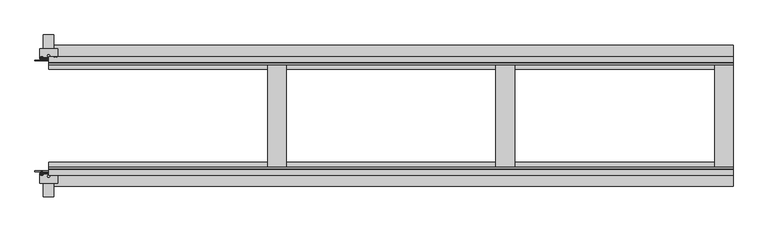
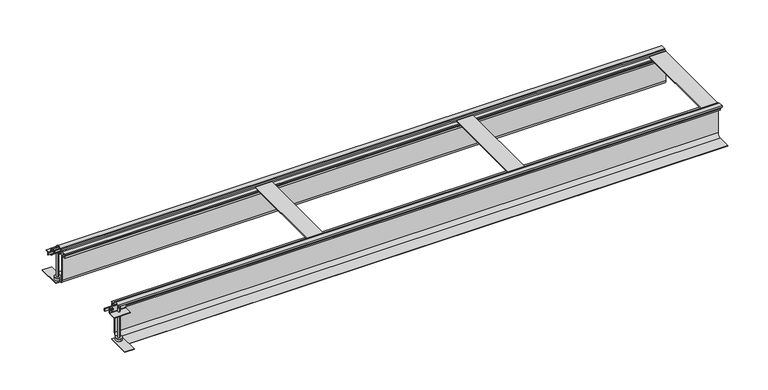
"""IFC4 building model written with IfcOpenShell, lengths in millimetres: proxy geometry, Electrical_Installation_Hager_BKF-Trunking-System-With-Flexible-Screed-Casing-For-Dry-Cleaned-Floors : Nominal Size 400  Length 2.4 m."""

from ifc_helpers import new_model, si_unit, point, frame, frame_2d, origin, place, context, project, spatial, polyline, circle_curve, ellipse_curve, trimmed, segment, composite_curve, outline, extrude, source, transform, mapped, element, save
from ifc_brep_helpers import plane_surface, cylinder_surface, revolved_surface, advanced_brep


def electrical_fixtures_b430188c(model_context):
    return source(origin(), model_context, "Body", "SolidModel", [
        advanced_brep(
        [(-19.209696, -206.6418922, 3.3), (-28.790304, -206.6418922, 3.3), (-28.790304, -204.7, 3.3), (-19.209696, -204.7, 3.3), (-26.562969, -204.7, 3.3), (-21.437031, -204.7, 3.3), (-26.562969, -192.7, 3.3), (-21.437031, -192.7, 3.3), (-24.0, -192.7, 3.3), (-24.0, -208.3479209, 3.3)],
        [
            (0, 1, circle_curve(frame((-24.0, -206.6418922, 3.3), z_axis=(0.0, 1.0, 0.0), x_axis=(-1.0, 0.0, 0.0)), 4.790304)),
            (1, 2),
            (2, 3, circle_curve(frame((-24.0, -204.7, 3.3), z_axis=(0.0, -1.0, 0.0), x_axis=(-1.0, 0.0, 0.0)), 4.790304)),
            (3, 0),
            (1, 0, circle_curve(frame((-24.0, -206.6418922, 3.3), z_axis=(0.0, 1.0, 0.0), x_axis=(-1.0, 0.0, 0.0)), 4.790304)),
            (3, 2, circle_curve(frame((-24.0, -204.7, 3.3), z_axis=(0.0, -1.0, 0.0), x_axis=(-1.0, 0.0, 0.0)), 4.790304)),
            (2, 4),
            (4, 5, circle_curve(frame((-24.0, -204.7, 3.3), z_axis=(0.0, -1.0, 0.0), x_axis=(-1.0, 0.0, 0.0)), 2.562969)),
            (5, 3),
            (5, 4, circle_curve(frame((-24.0, -204.7, 3.3), z_axis=(0.0, -1.0, 0.0), x_axis=(-1.0, 0.0, 0.0)), 2.562969)),
            (4, 6),
            (6, 7, circle_curve(frame((-24.0, -192.7, 3.3), z_axis=(0.0, -1.0, 0.0), x_axis=(-1.0, 0.0, 0.0)), 2.562969)),
            (7, 5),
            (7, 6, circle_curve(frame((-24.0, -192.7, 3.3), z_axis=(0.0, -1.0, 0.0), x_axis=(-1.0, 0.0, 0.0)), 2.562969)),
            (6, 8),
            (8, 7),
            (9, 1, circle_curve(frame((-24.0319066, -200.8592246, 3.3), z_axis=(0.0, 0.0, -1.0), x_axis=(-1.0, 0.0, 0.0)), 7.4887643)),
            (0, 9, circle_curve(frame((-23.9680934, -200.8592246, 3.3), z_axis=(0.0, 0.0, -1.0), x_axis=(1.0, 0.0, 0.0)), 7.4887643)),
        ],
        [
            cylinder_surface(frame((-24.0, -204.2950786, 3.3), z_axis=(0.0, -1.0, 0.0), x_axis=(-1.0, 0.0, 0.0)), 4.790304),
            plane_surface(frame((-24.0, -204.7, 3.3), z_axis=(0.0, 1.0, 0.0), x_axis=(-1.0, 0.0, 0.0))),
            cylinder_surface(frame((-24.0, -204.2950786, 3.3), z_axis=(0.0, -1.0, 0.0), x_axis=(-1.0, 0.0, 0.0)), 2.562969),
            plane_surface(frame((-24.0, -192.7, 3.3), z_axis=(0.0, 1.0, 0.0), x_axis=(-1.0, 0.0, 0.0))),
            revolved_surface(trimmed(ellipse_curve(frame((-24.0319066, -200.8592246, 3.3), z_axis=(0.0, 0.0, 1.0), x_axis=(-1.0, 0.0, 0.0)), 7.4887643, 7.4887643), [point((-28.790304, -206.6418922, 3.3))], [point((-24.0, -208.3479209, 3.3))], True, "CARTESIAN"), (-24.0, -204.2950786, 3.3), (0.0, -1.0, 0.0)),
        ],
        [
            (0, [[1, 2, 3, 4]]),
            (0, [[5, -4, 6, -2]]),
            (1, [[-3, 7, 8, 9]]),
            (1, [[-6, -9, 10, -7]]),
            (2, [[-8, 11, 12, 13]]),
            (2, [[-10, -13, 14, -11]]),
            (3, [[-12, 15, 16]]),
            (3, [[-14, -16, -15]]),
            (4, [[17, -1, 18]]),
            (4, [[-18, -5, -17]]),
        ],
    ),
        advanced_brep(
        [(29.0575247, 204.7, 3.3), (19.4769168, 204.7, 3.3), (19.4769168, 206.6418922, 3.3), (29.0575247, 206.6418922, 3.3), (26.8301898, 204.7, 3.3), (21.7042517, 204.7, 3.3), (26.8301898, 192.7, 3.3), (21.7042517, 192.7, 3.3), (24.2672208, 192.7, 3.3), (24.2672208, 208.3479209, 3.3)],
        [
            (0, 1, circle_curve(frame((24.2672208, 204.7, 3.3), z_axis=(0.0, 1.0, 0.0), x_axis=(-1.0, 0.0, 0.0)), 4.790304)),
            (1, 2),
            (2, 3, circle_curve(frame((24.2672208, 206.6418922, 3.3), z_axis=(0.0, -1.0, 0.0), x_axis=(-1.0, 0.0, 0.0)), 4.790304)),
            (3, 0),
            (1, 0, circle_curve(frame((24.2672208, 204.7, 3.3), z_axis=(0.0, 1.0, 0.0), x_axis=(-1.0, 0.0, 0.0)), 4.790304)),
            (3, 2, circle_curve(frame((24.2672208, 206.6418922, 3.3), z_axis=(0.0, -1.0, 0.0), x_axis=(-1.0, 0.0, 0.0)), 4.790304)),
            (4, 5, circle_curve(frame((24.2672208, 204.7, 3.3), z_axis=(0.0, 1.0, 0.0), x_axis=(-1.0, 0.0, 0.0)), 2.562969)),
            (5, 1),
            (0, 4),
            (5, 4, circle_curve(frame((24.2672208, 204.7, 3.3), z_axis=(0.0, 1.0, 0.0), x_axis=(-1.0, 0.0, 0.0)), 2.562969)),
            (6, 7, circle_curve(frame((24.2672208, 192.7, 3.3), z_axis=(0.0, 1.0, 0.0), x_axis=(-1.0, 0.0, 0.0)), 2.562969)),
            (7, 5),
            (4, 6),
            (7, 6, circle_curve(frame((24.2672208, 192.7, 3.3), z_axis=(0.0, 1.0, 0.0), x_axis=(-1.0, 0.0, 0.0)), 2.562969)),
            (8, 7),
            (6, 8),
            (2, 9, circle_curve(frame((24.2353142, 200.8592246, 3.3), z_axis=(0.0, 0.0, -1.0), x_axis=(-1.0, 0.0, 0.0)), 7.4887643)),
            (9, 3, circle_curve(frame((24.2991274, 200.8592246, 3.3), z_axis=(0.0, 0.0, -1.0), x_axis=(1.0, 0.0, 0.0)), 7.4887643)),
        ],
        [
            cylinder_surface(frame((24.2672208, 204.2950786, 3.3), z_axis=(0.0, -1.0, 0.0), x_axis=(-1.0, 0.0, 0.0)), 4.790304),
            plane_surface(frame((24.2672208, 204.7, 3.3), z_axis=(0.0, -1.0, 0.0), x_axis=(-1.0, 0.0, 0.0))),
            cylinder_surface(frame((24.2672208, 204.2950786, 3.3), z_axis=(0.0, -1.0, 0.0), x_axis=(-1.0, 0.0, 0.0)), 2.562969),
            plane_surface(frame((24.2672208, 192.7, 3.3), z_axis=(0.0, -1.0, 0.0), x_axis=(-1.0, 0.0, 0.0))),
            revolved_surface(trimmed(ellipse_curve(frame((24.2353142, 200.8592246, 3.3), z_axis=(0.0, 0.0, 1.0), x_axis=(-1.0, 0.0, 0.0)), 7.4887643, 7.4887643), [point((24.2672208, 208.3479209, 3.3))], [point((19.4769168, 206.6418922, 3.3))], True, "CARTESIAN"), (24.2672208, 204.2950786, 3.3), (0.0, -1.0, 0.0)),
        ],
        [
            (0, [[1, 2, 3, 4]]),
            (0, [[5, -4, 6, -2]]),
            (1, [[7, 8, -1, 9]]),
            (1, [[10, -9, -5, -8]]),
            (2, [[11, 12, -7, 13]]),
            (2, [[14, -13, -10, -12]]),
            (3, [[15, -11, 16]]),
            (3, [[-16, -14, -15]]),
            (4, [[-3, 17, 18]]),
            (4, [[-6, -18, -17]]),
        ],
    ),
        advanced_brep(
        [(-19.209696, 204.7, 3.3), (-28.790304, 204.7, 3.3), (-28.790304, 206.6418922, 3.3), (-19.209696, 206.6418922, 3.3), (-21.437031, 204.7, 3.3), (-26.562969, 204.7, 3.3), (-21.437031, 192.7, 3.3), (-26.562969, 192.7, 3.3), (-24.0, 192.7, 3.3), (-24.0, 208.3479209, 3.3)],
        [
            (0, 1, circle_curve(frame((-24.0, 204.7, 3.3), z_axis=(0.0, 1.0, 0.0), x_axis=(-1.0, 0.0, 0.0)), 4.790304)),
            (1, 2),
            (2, 3, circle_curve(frame((-24.0, 206.6418922, 3.3), z_axis=(0.0, -1.0, 0.0), x_axis=(-1.0, 0.0, 0.0)), 4.790304)),
            (3, 0),
            (1, 0, circle_curve(frame((-24.0, 204.7, 3.3), z_axis=(0.0, 1.0, 0.0), x_axis=(-1.0, 0.0, 0.0)), 4.790304)),
            (3, 2, circle_curve(frame((-24.0, 206.6418922, 3.3), z_axis=(0.0, -1.0, 0.0), x_axis=(-1.0, 0.0, 0.0)), 4.790304)),
            (4, 5, circle_curve(frame((-24.0, 204.7, 3.3), z_axis=(0.0, 1.0, 0.0), x_axis=(-1.0, 0.0, 0.0)), 2.562969)),
            (5, 1),
            (0, 4),
            (5, 4, circle_curve(frame((-24.0, 204.7, 3.3), z_axis=(0.0, 1.0, 0.0), x_axis=(-1.0, 0.0, 0.0)), 2.562969)),
            (6, 7, circle_curve(frame((-24.0, 192.7, 3.3), z_axis=(0.0, 1.0, 0.0), x_axis=(-1.0, 0.0, 0.0)), 2.562969)),
            (7, 5),
            (4, 6),
            (7, 6, circle_curve(frame((-24.0, 192.7, 3.3), z_axis=(0.0, 1.0, 0.0), x_axis=(-1.0, 0.0, 0.0)), 2.562969)),
            (8, 7),
            (6, 8),
            (2, 9, circle_curve(frame((-24.0319066, 200.8592246, 3.3), z_axis=(0.0, 0.0, -1.0), x_axis=(-1.0, 0.0, 0.0)), 7.4887643)),
            (9, 3, circle_curve(frame((-23.9680934, 200.8592246, 3.3), z_axis=(0.0, 0.0, -1.0), x_axis=(1.0, 0.0, 0.0)), 7.4887643)),
        ],
        [
            cylinder_surface(frame((-24.0, 204.2950786, 3.3), z_axis=(0.0, -1.0, 0.0), x_axis=(-1.0, 0.0, 0.0)), 4.790304),
            plane_surface(frame((-24.0, 204.7, 3.3), z_axis=(0.0, -1.0, 0.0), x_axis=(-1.0, 0.0, 0.0))),
            cylinder_surface(frame((-24.0, 204.2950786, 3.3), z_axis=(0.0, -1.0, 0.0), x_axis=(-1.0, 0.0, 0.0)), 2.562969),
            plane_surface(frame((-24.0, 192.7, 3.3), z_axis=(0.0, -1.0, 0.0), x_axis=(-1.0, 0.0, 0.0))),
            revolved_surface(trimmed(ellipse_curve(frame((-24.0319066, 200.8592246, 3.3), z_axis=(0.0, 0.0, 1.0), x_axis=(-1.0, 0.0, 0.0)), 7.4887643, 7.4887643), [point((-24.0, 208.3479209, 3.3))], [point((-28.790304, 206.6418922, 3.3))], True, "CARTESIAN"), (-24.0, 204.2950786, 3.3), (0.0, -1.0, 0.0)),
        ],
        [
            (0, [[1, 2, 3, 4]]),
            (0, [[5, -4, 6, -2]]),
            (1, [[7, 8, -1, 9]]),
            (1, [[10, -9, -5, -8]]),
            (2, [[11, 12, -7, 13]]),
            (2, [[14, -13, -10, -12]]),
            (3, [[15, -11, 16]]),
            (3, [[-16, -14, -15]]),
            (4, [[-3, 17, 18]]),
            (4, [[-6, -18, -17]]),
        ],
    ),
        extrude(outline(polyline([(-48.0, 192.7), (-48.0, 195.7), (48.0, 195.7), (48.0, 192.7), (-48.0, 192.7)])), frame((0.0, 0.0, -1.7), z_axis=(0.0, 0.0, 1.0), x_axis=(1.0, 0.0, 0.0)), (0.0, 0.0, 1.0), 10.0),
        extrude(outline(polyline([(-48.0, -195.7), (-48.0, -192.7), (48.0, -192.7), (48.0, -195.7), (-48.0, -195.7)])), frame((0.0, 0.0, -1.7), z_axis=(0.0, 0.0, 1.0), x_axis=(1.0, 0.0, 0.0)), (0.0, 0.0, 1.0), 10.0),
        extrude(outline(composite_curve([segment(polyline([(200.6, 11.7), (202.6, 11.7), (202.6, -10.3088822)]), True, "CONTINUOUS"), segment(trimmed(circle_curve(frame_2d((203.5911178, -10.3088822)), 0.9911178), [point((202.6, -10.3088822))], [point((203.5911178, -11.3))], True, "CARTESIAN"), True, "CONTINUOUS"), segment(polyline([(203.5911178, -11.3), (235.6, -11.3), (235.6, -13.3), (203.6002521, -13.3)]), True, "CONTINUOUS"), segment(trimmed(circle_curve(frame_2d((203.6002521, -10.2997479)), 3.0002521), [point((203.6002521, -13.3))], [point((200.6, -10.2997479))], False, "CARTESIAN"), True, "CONTINUOUS"), segment(polyline([(200.6, -10.2997479), (200.6, 11.7)]), True, "CONTINUOUS")], self_intersect=False)), frame((-31.7, 0.0, 0.0), z_axis=(1.0, 0.0, 0.0), x_axis=(0.0, 1.0, 0.0)), (0.0, 0.0, 1.0), 63.4),
        extrude(outline(composite_curve([segment(polyline([(-200.6, 11.7), (-200.6, -10.2997479)]), True, "CONTINUOUS"), segment(trimmed(circle_curve(frame_2d((-203.6002521, -10.2997479)), 3.0002521), [point((-200.6, -10.2997479))], [point((-203.6002521, -13.3))], False, "CARTESIAN"), True, "CONTINUOUS"), segment(polyline([(-203.6002521, -13.3), (-235.6, -13.3), (-235.6, -11.3), (-203.5911178, -11.3)]), True, "CONTINUOUS"), segment(trimmed(circle_curve(frame_2d((-203.5911178, -10.3088822)), 0.9911178), [point((-203.5911178, -11.3))], [point((-202.6, -10.3088822))], True, "CARTESIAN"), True, "CONTINUOUS"), segment(polyline([(-202.6, -10.3088822), (-202.6, 11.7), (-200.6, 11.7)]), True, "CONTINUOUS")], self_intersect=False)), frame((-31.7, 0.0, 0.0), z_axis=(1.0, 0.0, 0.0), x_axis=(0.0, 1.0, 0.0)), (0.0, 0.0, 1.0), 63.4),
        extrude(outline(composite_curve([segment(trimmed(circle_curve(frame_2d((0.0, 211.1712378)), 3.9923162), [point((0.0, 215.163554))], [point((0.0, 207.1789216))], False, "CARTESIAN"), True, "CONTINUOUS"), segment(trimmed(circle_curve(frame_2d((0.0, 211.1712378)), 3.9923162), [point((0.0, 207.1789216))], [point((0.0, 215.163554))], False, "CARTESIAN"), True, "CONTINUOUS")], self_intersect=False)), frame((0.0, 0.0, -119.0), z_axis=(0.0, 0.0, 1.0), x_axis=(1.0, 0.0, 0.0)), (0.0, 0.0, 1.0), 126.8),
        extrude(outline(composite_curve([segment(trimmed(circle_curve(frame_2d((0.0, -211.0787011)), 3.991847), [point((0.0, -207.0868541))], [point((0.0, -215.0705482))], False, "CARTESIAN"), True, "CONTINUOUS"), segment(trimmed(circle_curve(frame_2d((0.0, -211.0787011)), 3.991847), [point((0.0, -215.0705482))], [point((0.0, -207.0868541))], False, "CARTESIAN"), True, "CONTINUOUS")], self_intersect=False)), frame((0.0, 0.0, -119.0), z_axis=(0.0, 0.0, 1.0), x_axis=(1.0, 0.0, 0.0)), (0.0, 0.0, 1.0), 126.8),
        extrude(outline(composite_curve([segment(trimmed(circle_curve(frame_2d((0.0, 211.1652527)), 12.0), [point((0.0, 223.1652527))], [point((0.0, 199.1652527))], False, "CARTESIAN"), True, "CONTINUOUS"), segment(trimmed(circle_curve(frame_2d((0.0, 211.1652527)), 12.0), [point((0.0, 199.1652527))], [point((0.0, 223.1652527))], False, "CARTESIAN"), True, "CONTINUOUS")], self_intersect=False)), frame((0.0, 0.0, -129.7), z_axis=(0.0, 0.0, 1.0), x_axis=(1.0, 0.0, 0.0)), (0.0, 0.0, 1.0), 10.7),
        extrude(outline(composite_curve([segment(trimmed(circle_curve(frame_2d((0.0, -211.112037)), 12.0), [point((0.0, -199.112037))], [point((0.0, -223.112037))], False, "CARTESIAN"), True, "CONTINUOUS"), segment(trimmed(circle_curve(frame_2d((0.0, -211.112037)), 12.0), [point((0.0, -223.112037))], [point((0.0, -199.112037))], False, "CARTESIAN"), True, "CONTINUOUS")], self_intersect=False)), frame((0.0, 0.0, -129.7), z_axis=(0.0, 0.0, 1.0), x_axis=(1.0, 0.0, 0.0)), (0.0, 0.0, 1.0), 10.7),
        extrude(outline(polyline([(18.0, 194.1), (-18.0, 194.1), (-18.0, 284.1), (18.0, 284.1), (18.0, 194.1)])), frame((0.0, 0.0, -131.2), z_axis=(0.0, 0.0, 1.0), x_axis=(1.0, 0.0, 0.0)), (0.0, 0.0, 1.0), 1.5),
        extrude(outline(polyline([(18.0, -284.1), (-18.0, -284.1), (-18.0, -194.1), (18.0, -194.1), (18.0, -284.1)])), frame((0.0, 0.0, -131.2), z_axis=(0.0, 0.0, 1.0), x_axis=(1.0, 0.0, 0.0)), (0.0, 0.0, 1.0), 1.5),
        extrude(outline(polyline([(2400.0, 180.0), (2400.0, -180.0), (2335.0, -180.0), (2335.0, 180.0), (2400.0, 180.0)])), frame((0.0, 0.0, 2.5), z_axis=(0.0, 0.0, 1.0), x_axis=(1.0, 0.0, 0.0)), (0.0, 0.0, 1.0), 4.2),
        extrude(outline(polyline([(1633.5851476, 179.8), (1633.5851476, -179.8), (1568.585332, -179.8), (1568.585332, 179.8), (1633.5851476, 179.8)])), frame((0.0, 0.0, 2.5), z_axis=(0.0, 0.0, 1.0), x_axis=(1.0, 0.0, 0.0)), (0.0, 0.0, 1.0), 4.2),
        extrude(outline(polyline([(833.5851476, 179.8), (833.5851476, -179.8), (768.585332, -179.8), (768.585332, 179.8), (833.5851476, 179.8)])), frame((0.0, 0.0, 2.5), z_axis=(0.0, 0.0, 1.0), x_axis=(1.0, 0.0, 0.0)), (0.0, 0.0, 1.0), 4.2),
        extrude(outline(polyline([(208.0, 6.7), (190.0, 6.7), (190.0, -2.5), (200.475, -2.5), (200.475, -4.0), (194.6, -4.0), (194.6, -14.0), (193.1, -14.0), (193.1, -4.0), (185.1, -4.0), (185.1, -10.1), (173.3, -10.1), (173.3, -14.0), (163.1, -14.0), (163.1, -6.6607064), (166.0, -6.6607064), (166.0, -12.5), (170.7, -12.5), (170.7, 0.5), (166.0, 0.5), (166.0, -2.1), (162.9910979, -2.1), (162.9910979, 2.5), (179.8, 2.5), (179.8, 10.0), (185.0, 10.0), (185.0, -0.5), (188.0, -0.5), (188.0, 13.0), (208.0, 13.0), (208.0, 6.7)])), frame((0.0, 0.0, 0.0), z_axis=(1.0, 0.0, 0.0), x_axis=(0.0, 1.0, 0.0)), (0.0, 0.0, 1.0), 2400.0),
        extrude(outline(polyline([(-208.0, 6.7), (-208.0, 13.0), (-188.0, 13.0), (-188.0, -0.5), (-185.0, -0.5), (-185.0, 10.0), (-179.8, 10.0), (-179.8, 2.5), (-162.9910979, 2.5), (-162.9910979, -2.1), (-166.0, -2.1), (-166.0, 0.5), (-170.7, 0.5), (-170.7, -12.5), (-166.0, -12.5), (-166.0, -6.6607064), (-163.1, -6.6607064), (-163.1, -14.0), (-173.3, -14.0), (-173.3, -10.1), (-185.1, -10.1), (-185.1, -4.0), (-193.1, -4.0), (-193.1, -14.0), (-194.6, -14.0), (-194.6, -4.0), (-200.475, -4.0), (-200.475, -2.5), (-190.0, -2.5), (-190.0, 6.7), (-208.0, 6.7)])), frame((0.0, 0.0, 0.0), z_axis=(1.0, 0.0, 0.0), x_axis=(0.0, 1.0, 0.0)), (0.0, 0.0, 1.0), 2400.0),
        extrude(outline(composite_curve([segment(polyline([(180.1407967, -1.2), (180.9257245, -1.2), (180.9257245, -116.2)]), True, "CONTINUOUS"), segment(trimmed(circle_curve(frame_2d((195.9257245, -116.2)), 15.0), [point((180.9257245, -116.2))], [point((195.9257245, -131.2))], True, "CARTESIAN"), True, "CONTINUOUS"), segment(polyline([(195.9257245, -131.2), (247.2934005, -131.2), (247.2934005, -131.9992624), (195.1407967, -131.9992624)]), True, "CONTINUOUS"), segment(trimmed(circle_curve(frame_2d((195.1407967, -116.9992624)), 15.0), [point((195.1407967, -131.9992624))], [point((180.1407967, -116.9992624))], False, "CARTESIAN"), True, "CONTINUOUS"), segment(polyline([(180.1407967, -116.9992624), (180.1407967, -1.2)]), True, "CONTINUOUS")], self_intersect=False)), frame((0.0, 0.0, 0.0), z_axis=(1.0, 0.0, 0.0), x_axis=(0.0, 1.0, 0.0)), (0.0, 0.0, 1.0), 2400.0),
        extrude(outline(composite_curve([segment(polyline([(-180.1407967, -1.2), (-180.1407967, -116.9992624)]), True, "CONTINUOUS"), segment(trimmed(circle_curve(frame_2d((-195.1407967, -116.9992624)), 15.0), [point((-180.1407967, -116.9992624))], [point((-195.1407967, -131.9992624))], False, "CARTESIAN"), True, "CONTINUOUS"), segment(polyline([(-195.1407967, -131.9992624), (-247.2934005, -131.9992624), (-247.2934005, -131.2), (-195.9257245, -131.2)]), True, "CONTINUOUS"), segment(trimmed(circle_curve(frame_2d((-195.9257245, -116.2)), 15.0), [point((-195.9257245, -131.2))], [point((-180.9257245, -116.2))], True, "CARTESIAN"), True, "CONTINUOUS"), segment(polyline([(-180.9257245, -116.2), (-180.9257245, -1.2), (-180.1407967, -1.2)]), True, "CONTINUOUS")], self_intersect=False)), frame((0.0, 0.0, 0.0), z_axis=(1.0, 0.0, 0.0), x_axis=(0.0, 1.0, 0.0)), (0.0, 0.0, 1.0), 2400.0),
    ])


if __name__ == "__main__":
    model = new_model("IFC4")
    model_context = context("Model", 3, world=origin())
    ifc_project = project(units=[si_unit("LENGTHUNIT", "METRE", prefix="MILLI")], contexts=[model_context])
    site = spatial("IfcSite", under=ifc_project)
    building = spatial("IfcBuilding", under=site)
    placement = place(None, origin())
    electrical_fixtures_shape = electrical_fixtures_b430188c(model_context)
    element("IfcBuildingElementProxy", 1, Name="Electrical_Installation_Hager_BKF-Trunking-System-With-Flexible-Screed-Casing-For-Dry-Cleaned-Floors : Nominal Size 400  Length 2.4 m", ObjectType="Electrical_Installation_Hager_BKF-Trunking-System-With-Flexible-Screed-Casing-For-Dry-Cleaned-Floors : Nominal Size 400  Length 2.4 m", at=placement, inside=building, context=model_context, shape_type="MappedRepresentation", body=[
        mapped(electrical_fixtures_shape, transform((0.0, 0.0, 0.0), x_axis=(1.0, 0.0, 0.0), y_axis=(0.0, 1.0, 0.0), z_axis=(0.0, 0.0, 1.0))),
    ])
    save(model, "model.ifc")
